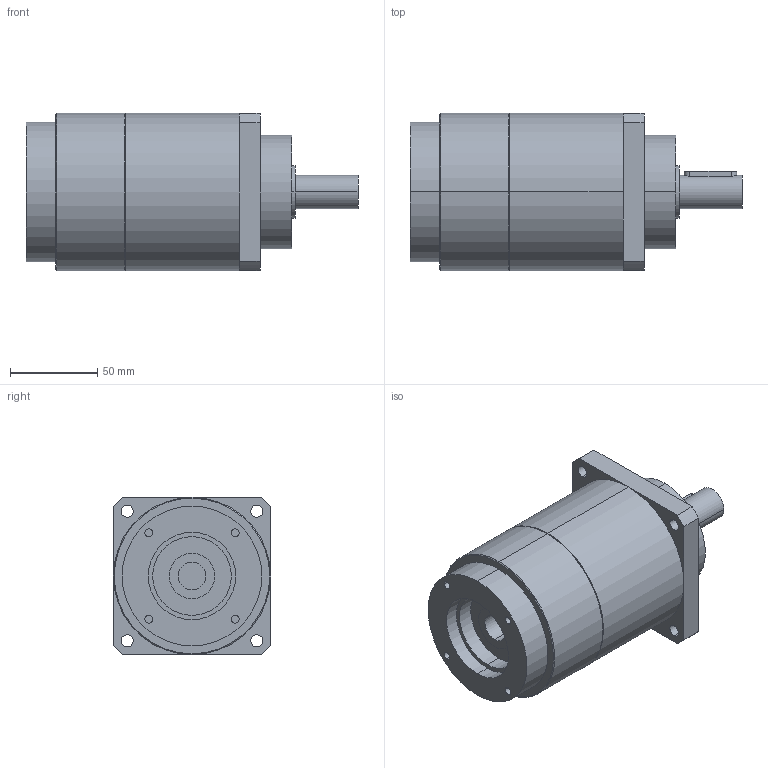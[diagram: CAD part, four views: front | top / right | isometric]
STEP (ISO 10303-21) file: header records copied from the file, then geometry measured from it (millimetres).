
FILE_DESCRIPTION(('CoCreate Modeling STEP Export'),'2;1');
FILE_NAME('GPT90_ig-9-12-16-20-25-28-35-40-50-70-100_19_B5T_15.87_P15.stp','2015-02-04T11:31:13',(''),(''),'CoCreate Modeling STEP processor for AP214 (Solid Model)','CoCreate Modeling 16.00C 25-Feb-2009 (C) Parametric Technology GmbH','');
FILE_SCHEMA(('AUTOMOTIVE_DESIGN { 1 0 10303 214 1 1 1 1 }'));
Length unit declared in the file: millimetre
Products named in the file (2): GPT90_ig-9-12-16-20-25-28-35-40-50-70-100_19_B5T_15.87_P15
Assembly tree (1 placements, depth 2):
  GPT90_ig-9-12-16-20-25-28-35-40-50-70-100_19_B5T_15.87_P15
    GPT90_ig-9-12-16-20-25-28-35-40-50-70-100_19_B5T_15.87_P15
Bounding box: 190 x 90 x 90 mm (x, y, z)
Volume: 882872.7 mm3; surface area: 67087.2 mm2
Topology: 1 solids, 1 shells, 75 faces, 190 edges, 131 vertices
Faces by surface type: cylinder 44, plane 27, cone 4
Entity records: 2388 total; most frequent: CARTESIAN_POINT 704, ORIENTED_EDGE 380, DIRECTION 282, EDGE_CURVE 190, VERTEX_POINT 131, AXIS2_PLACEMENT_3D 106, EDGE_LOOP 97, FACE_OUTER_BOUND 75
